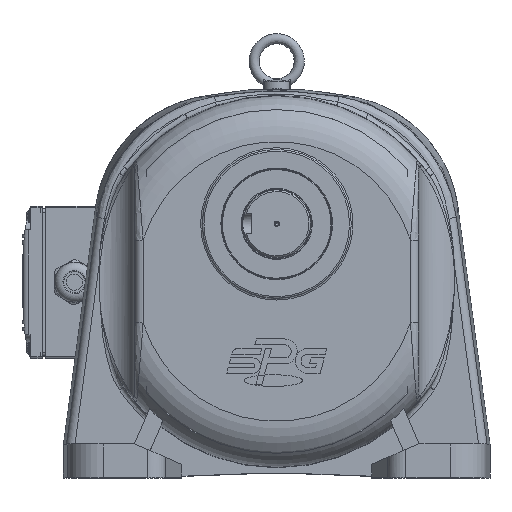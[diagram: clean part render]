
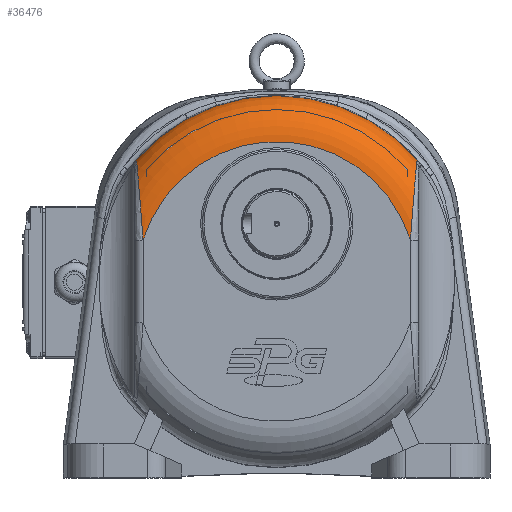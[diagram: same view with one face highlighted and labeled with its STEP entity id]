
A CAD part, top view. The second image highlights one B-rep face of the part: STEP entity #36476.
In plain terms, the highlighted toroidal (fillet/blend) face has major radius 82.678 mm and minor radius 27 mm.
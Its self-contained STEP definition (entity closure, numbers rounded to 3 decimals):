
#973=B_SPLINE_CURVE_WITH_KNOTS('',3,(#69152,#69153,#69154,#69155,#69156),
 .UNSPECIFIED.,.F.,.F.,(4,1,4),(-0.783,-0.447,0.),
 .UNSPECIFIED.);
#975=B_SPLINE_CURVE_WITH_KNOTS('',3,(#69284,#69285,#69286,#69287,#69288,
#69289,#69290,#69291,#69292,#69293),.UNSPECIFIED.,.F.,.F.,(4,1,1,1,1,1,
1,4),(-4.597,-3.776,-3.284,-1.97,
-1.642,-0.657,-0.493,0.),.UNSPECIFIED.);
#983=B_SPLINE_CURVE_WITH_KNOTS('',3,(#69506,#69507,#69508,#69509,#69510,
#69511,#69512,#69513,#69514),.UNSPECIFIED.,.F.,.F.,(4,1,1,1,1,1,4),(-14.071,
-13.415,-12.758,-12.43,-12.101,
-10.788,-9.474),.UNSPECIFIED.);
#985=B_SPLINE_CURVE_WITH_KNOTS('',3,(#69595,#69596,#69597,#69598,#69599),
 .UNSPECIFIED.,.F.,.F.,(4,1,4),(-0.783,-0.447,0.),
 .UNSPECIFIED.);
#6848=TOROIDAL_SURFACE('',#39716,82.678,27.);
#8280=FACE_OUTER_BOUND('',#10481,.T.);
#10481=EDGE_LOOP('',(#28462,#28463,#28464,#28465,#28466,#28467));
#12701=CIRCLE('',#39640,82.678);
#12755=CIRCLE('',#39717,109.669);
#15625=VERTEX_POINT('',#67958);
#15627=VERTEX_POINT('',#67961);
#15732=VERTEX_POINT('',#69149);
#15733=VERTEX_POINT('',#69151);
#15744=VERTEX_POINT('',#69504);
#15745=VERTEX_POINT('',#69593);
#20079=EDGE_CURVE('',#15627,#15625,#12701,.T.);
#20197=EDGE_CURVE('',#15732,#15733,#973,.T.);
#20202=EDGE_CURVE('',#15627,#15732,#975,.T.);
#20217=EDGE_CURVE('',#15744,#15625,#983,.T.);
#20221=EDGE_CURVE('',#15745,#15744,#985,.T.);
#20247=EDGE_CURVE('',#15745,#15733,#12755,.T.);
#28462=ORIENTED_EDGE('',*,*,#20247,.T.);
#28463=ORIENTED_EDGE('',*,*,#20197,.F.);
#28464=ORIENTED_EDGE('',*,*,#20202,.F.);
#28465=ORIENTED_EDGE('',*,*,#20079,.T.);
#28466=ORIENTED_EDGE('',*,*,#20217,.F.);
#28467=ORIENTED_EDGE('',*,*,#20221,.F.);
#36476=ADVANCED_FACE('',(#8280),#6848,.T.);
#39640=AXIS2_PLACEMENT_3D('',#67962,#47123,#47124);
#39716=AXIS2_PLACEMENT_3D('',#69719,#47354,#47355);
#39717=AXIS2_PLACEMENT_3D('',#69720,#47356,#47357);
#47123=DIRECTION('center_axis',(0.,0.,-1.));
#47124=DIRECTION('ref_axis',(-1.,0.,0.));
#47354=DIRECTION('center_axis',(0.,0.,-1.));
#47355=DIRECTION('ref_axis',(-1.,0.,0.));
#47356=DIRECTION('center_axis',(0.,0.,1.));
#47357=DIRECTION('ref_axis',(-1.,0.,0.));
#67958=CARTESIAN_POINT('',(71.345,8.757,59.5));
#67961=CARTESIAN_POINT('',(-86.655,8.757,59.5));
#67962=CARTESIAN_POINT('Origin',(-7.655,-15.628,59.5));
#69149=CARTESIAN_POINT('',(-90.221,53.726,42.318));
#69151=CARTESIAN_POINT('',(-91.567,54.984,33.186));
#69152=CARTESIAN_POINT('Ctrl Pts',(-90.221,53.726,42.318));
#69153=CARTESIAN_POINT('Ctrl Pts',(-90.273,54.376,41.145));
#69154=CARTESIAN_POINT('Ctrl Pts',(-90.512,55.568,38.106));
#69155=CARTESIAN_POINT('Ctrl Pts',(-91.134,55.432,34.864));
#69156=CARTESIAN_POINT('Ctrl Pts',(-91.567,54.984,33.186));
#69284=CARTESIAN_POINT('Ctrl Pts',(-86.655,8.757,59.5));
#69285=CARTESIAN_POINT('Ctrl Pts',(-86.83,11.549,59.5));
#69286=CARTESIAN_POINT('Ctrl Pts',(-87.145,16.055,59.415));
#69287=CARTESIAN_POINT('Ctrl Pts',(-87.852,25.188,58.681));
#69288=CARTESIAN_POINT('Ctrl Pts',(-88.489,32.797,57.228));
#69289=CARTESIAN_POINT('Ctrl Pts',(-89.244,41.795,53.662));
#69290=CARTESIAN_POINT('Ctrl Pts',(-89.648,46.661,50.691));
#69291=CARTESIAN_POINT('Ctrl Pts',(-90.018,51.195,46.159));
#69292=CARTESIAN_POINT('Ctrl Pts',(-90.145,52.771,44.041));
#69293=CARTESIAN_POINT('Ctrl Pts',(-90.221,53.726,42.318));
#69504=CARTESIAN_POINT('',(74.912,53.726,42.318));
#69506=CARTESIAN_POINT('Ctrl Pts',(74.912,53.726,42.318));
#69507=CARTESIAN_POINT('Ctrl Pts',(74.81,52.453,44.615));
#69508=CARTESIAN_POINT('Ctrl Pts',(74.54,49.107,48.704));
#69509=CARTESIAN_POINT('Ctrl Pts',(74.115,43.965,52.331));
#69510=CARTESIAN_POINT('Ctrl Pts',(73.746,39.545,54.554));
#69511=CARTESIAN_POINT('Ctrl Pts',(73.18,32.799,57.223));
#69512=CARTESIAN_POINT('Ctrl Pts',(72.297,22.263,59.239));
#69513=CARTESIAN_POINT('Ctrl Pts',(71.626,13.224,59.5));
#69514=CARTESIAN_POINT('Ctrl Pts',(71.345,8.757,59.5));
#69593=CARTESIAN_POINT('',(76.257,54.984,33.186));
#69595=CARTESIAN_POINT('Ctrl Pts',(76.257,54.984,33.186));
#69596=CARTESIAN_POINT('Ctrl Pts',(75.933,55.32,34.445));
#69597=CARTESIAN_POINT('Ctrl Pts',(75.264,55.638,37.649));
#69598=CARTESIAN_POINT('Ctrl Pts',(74.981,54.592,40.754));
#69599=CARTESIAN_POINT('Ctrl Pts',(74.912,53.726,42.318));
#69719=CARTESIAN_POINT('Origin',(-7.655,-15.628,32.5));
#69720=CARTESIAN_POINT('Origin',(-7.655,-15.628,33.186));
